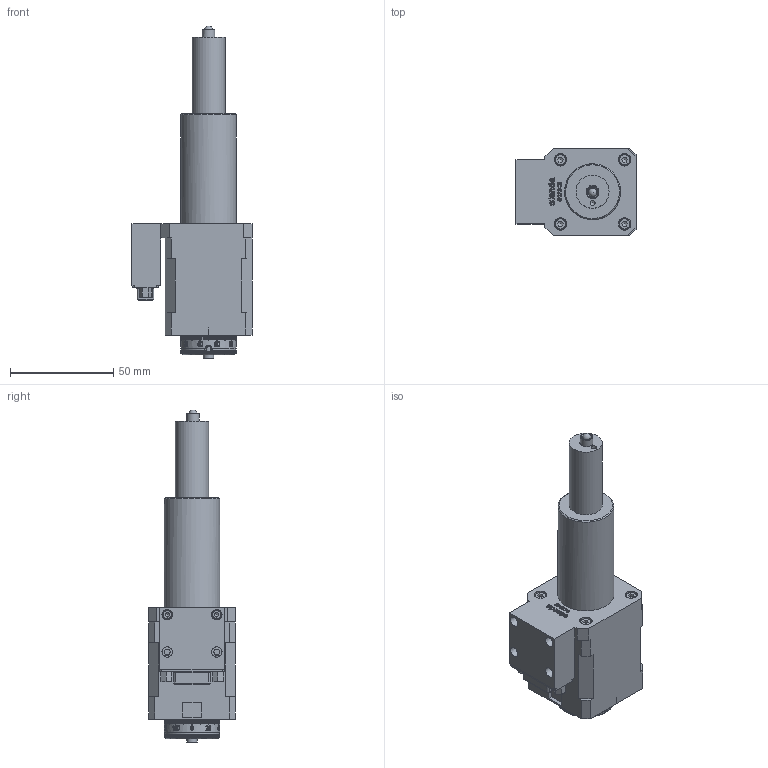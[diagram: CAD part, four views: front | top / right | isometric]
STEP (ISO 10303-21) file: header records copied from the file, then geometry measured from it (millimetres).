
FILE_DESCRIPTION(/* description */ (''),/* implementation_level */ '2;1');
FILE_NAME(/* name */ 'U:\KONSTRUKTORIAI\DOKUMENTACIJA\8\8MS00\8MS00-10\STEP\8MS00-10.stp',/* time_stamp */ '2014-10-29T10:19:20+02:00',/* author */ ('dsgn33'),/* organization */ (''),/* preprocessor_version */ 'ST-DEVELOPER v15.2',/* originating_system */ 'Autodesk Inventor 2014',/* authorisation */ '');
FILE_SCHEMA (('AUTOMOTIVE_DESIGN { 1 0 10303 214 3 1 1 }'));
Products named in the file (2): Part4; Assembly2
Bounding box: 58 x 42 x 160.45 mm (x, y, z)
Volume: 515 mm3; surface area: 48346.5 mm2
Topology: 42 solids, 45 shells, 2665 faces, 7256 edges, 4769 vertices
Faces by surface type: plane 1339, cylinder 733, bspline 442, cone 89, torus 46, sphere 16
Full cylindrical faces by diameter (mm): 1 x12, 1.221 x4, 1.411 x8, 1.5 x1, 1.567 x2, 1.6 x6, 2.013 x13, 2.459 x8, 2.5 x9, 2.8 x4, 3 x13, 3.302 x2, 3.5 x9, 4.5 x5, 5 x14, 5.459 x2, 5.5 x8, 6 x9, 7 x2, 8 x2, 9 x1, 9.4 x1, 10 x1, 10.5 x2, 11.2 x3, 12 x1, 13 x1, 14.5 x1, 15 x1, 16 x1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
Entity records: 115863 total; most frequent: CARTESIAN_POINT 53927, ORIENTED_EDGE 13614, DIRECTION 11280, EDGE_CURVE 6795, VERTEX_POINT 4589, AXIS2_PLACEMENT_3D 3963, LINE 3354, VECTOR 3354
